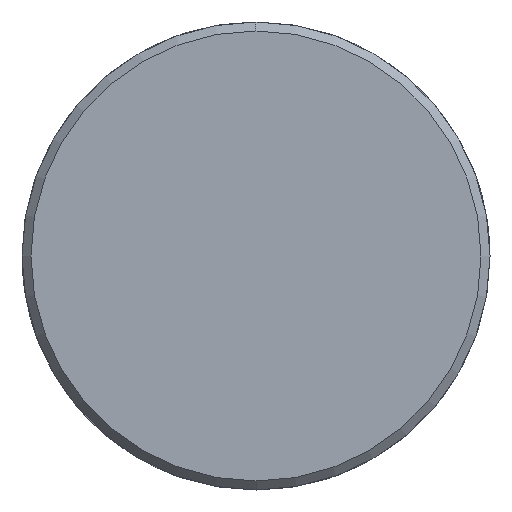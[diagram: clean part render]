
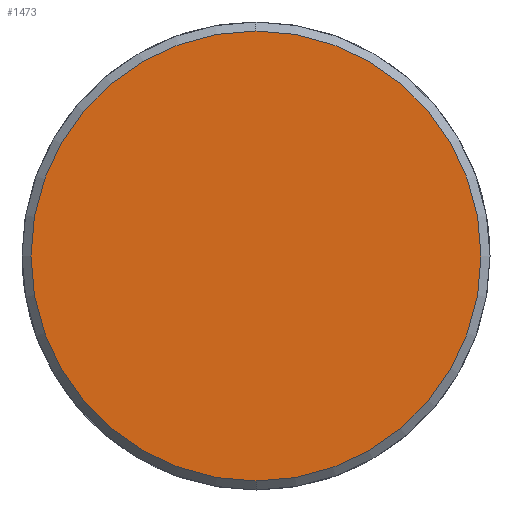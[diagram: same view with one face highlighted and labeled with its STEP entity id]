
A CAD part, left-side view. The second image highlights one B-rep face of the part: STEP entity #1473.
In plain terms, the highlighted planar face has unit normal (-1, 0, 0).
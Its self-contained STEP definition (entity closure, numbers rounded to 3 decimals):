
#1405=CARTESIAN_POINT('Vertex',(-8.,0.,-25.)) ;
#1408=CARTESIAN_POINT('Axis2P3D Location',(-8.,0.,0.)) ;
#1412=CARTESIAN_POINT('Vertex',(-8.,25.,0.)) ;
#1415=CARTESIAN_POINT('Axis2P3D Location',(-8.,0.,0.)) ;
#1419=CARTESIAN_POINT('Vertex',(-8.,0.,25.)) ;
#1441=CARTESIAN_POINT('Axis2P3D Location',(-8.,0.,0.)) ;
#1445=CARTESIAN_POINT('Vertex',(-8.,-25.,0.)) ;
#1448=CARTESIAN_POINT('Axis2P3D Location',(-8.,0.,0.)) ;
#1462=CARTESIAN_POINT('Axis2P3D Location',(-8.,0.,0.)) ;
#1409=DIRECTION('Axis2P3D Direction',(1.,0.,-0.)) ;
#1416=DIRECTION('Axis2P3D Direction',(1.,0.,-0.)) ;
#1442=DIRECTION('Axis2P3D Direction',(1.,0.,-0.)) ;
#1449=DIRECTION('Axis2P3D Direction',(1.,0.,-0.)) ;
#1463=DIRECTION('Axis2P3D Direction',(1.,0.,-0.)) ;
#1464=DIRECTION('Axis2P3D XDirection',(-0.,0.,-1.)) ;
#1410=AXIS2_PLACEMENT_3D('Circle Axis2P3D',#1408,#1409,$) ;
#1417=AXIS2_PLACEMENT_3D('Circle Axis2P3D',#1415,#1416,$) ;
#1443=AXIS2_PLACEMENT_3D('Circle Axis2P3D',#1441,#1442,$) ;
#1450=AXIS2_PLACEMENT_3D('Circle Axis2P3D',#1448,#1449,$) ;
#1465=AXIS2_PLACEMENT_3D('Plane Axis2P3D',#1462,#1463,#1464) ;
#1468=ORIENTED_EDGE('',*,*,#1414,.F.) ;
#1469=ORIENTED_EDGE('',*,*,#1452,.F.) ;
#1470=ORIENTED_EDGE('',*,*,#1447,.F.) ;
#1471=ORIENTED_EDGE('',*,*,#1421,.F.) ;
#1473=ADVANCED_FACE('351-40X116X400',(#1472),#1466,.F.) ;
#1411=CIRCLE('generated circle',#1410,25.) ;
#1418=CIRCLE('generated circle',#1417,25.) ;
#1444=CIRCLE('generated circle',#1443,25.) ;
#1451=CIRCLE('generated circle',#1450,25.) ;
#1414=EDGE_CURVE('',#1406,#1413,#1411,.T.) ;
#1421=EDGE_CURVE('',#1413,#1420,#1418,.T.) ;
#1447=EDGE_CURVE('',#1420,#1446,#1444,.T.) ;
#1452=EDGE_CURVE('',#1446,#1406,#1451,.T.) ;
#1467=EDGE_LOOP('',(#1468,#1469,#1470,#1471)) ;
#1472=FACE_OUTER_BOUND('',#1467,.T.) ;
#1466=PLANE('Plane',#1465) ;
#1406=VERTEX_POINT('',#1405) ;
#1413=VERTEX_POINT('',#1412) ;
#1420=VERTEX_POINT('',#1419) ;
#1446=VERTEX_POINT('',#1445) ;
